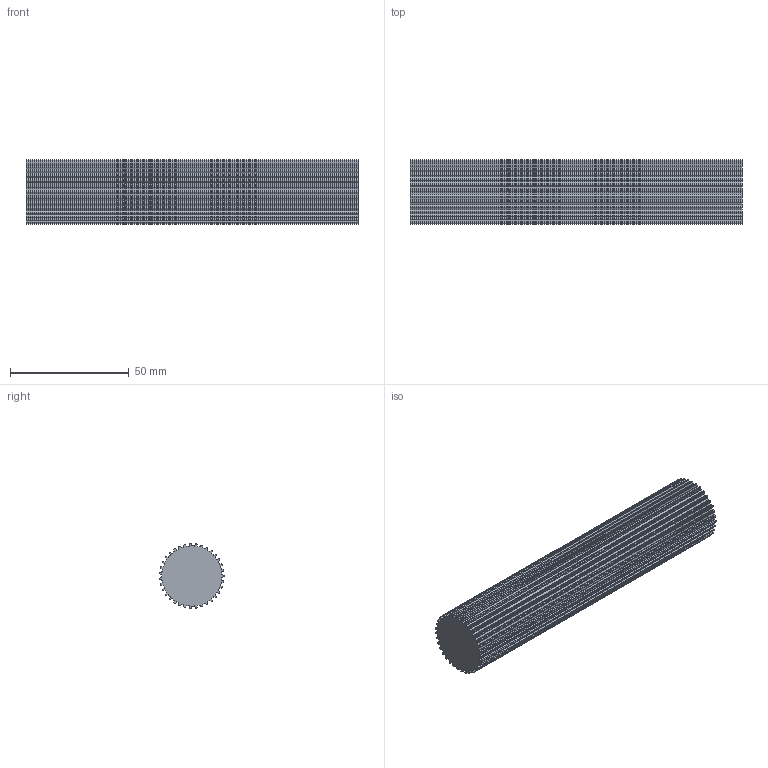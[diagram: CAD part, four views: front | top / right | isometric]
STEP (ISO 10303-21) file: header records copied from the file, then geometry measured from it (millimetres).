
FILE_DESCRIPTION( ( 'STEP AP214' ), '1' );
FILE_NAME( 'C:/Users/StangenbergN/Documents/CAD_Step/1/16093500.stp', '2019-07-25T19:41:57', ( '' ), ( '' ), ' ', 'PARTsolutions', ' ' );
FILE_SCHEMA( ( 'AUTOMOTIVE_DESIGN { 1 0 10303 214 1 1 1 1 }' ) );
Length unit declared in the file: millimetre
Products named in the file (1): _16093500
Bounding box: 140 x 27.3 x 27.33 mm (x, y, z)
Volume: 74987.6 mm3; surface area: 18752.2 mm2
Topology: 1 solids, 1 shells, 282 faces, 840 edges, 560 vertices
Faces by surface type: cylinder 175, plane 107
Entity records: 11886 total; most frequent: DIRECTION 1756, CARTESIAN_POINT 1683, ORIENTED_EDGE 1680, EDGE_CURVE 840, AXIS2_PLACEMENT_3D 633, VERTEX_POINT 560, LINE 490, VECTOR 490
